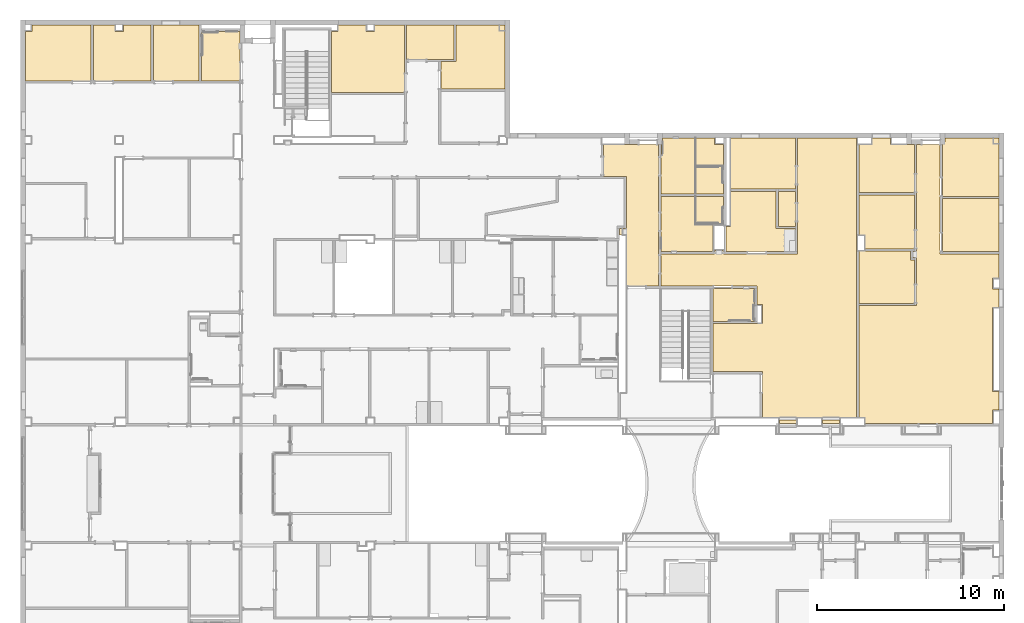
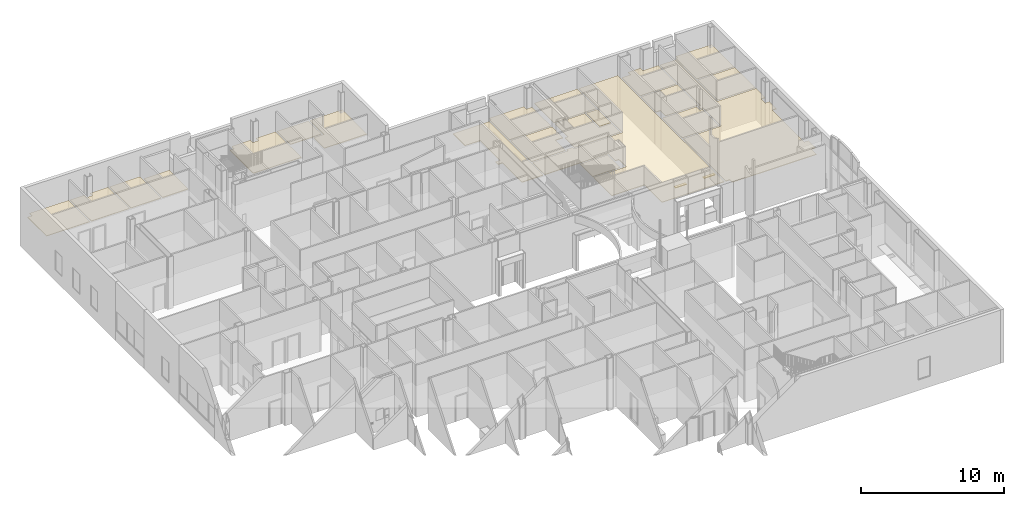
# One storey, part 56 of 87: 23 coverings.
"""IFC2X3 building model written with IfcOpenShell, lengths in metres."""

from ifc_helpers import new_model, entity, si_unit, converted_unit, origin, place, context, project, spatial, face_set, surface_model, material, layer, layer_set, layer_usage, element, save


model = new_model("IFC2X3")

# Units and contexts
model_context = context("Model", 3, precision=1e-09, world=origin())
plan_context = context("Plan", 3, precision=1e-09, world=origin())
ifc_project = project(units=[si_unit("LENGTHUNIT", "METRE"), si_unit("AREAUNIT", "SQUARE_METRE"), si_unit("VOLUMEUNIT", "CUBIC_METRE"), converted_unit("PLANEANGLEUNIT", "DEGREE", entity("IfcRatioMeasure", 0.01745329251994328), si_unit("PLANEANGLEUNIT", "RADIAN"), dimensions=[0, 0, 0, 0, 0, 0, 0]), si_unit("TIMEUNIT", "SECOND")], contexts=[model_context, plan_context])

# Site, building, storey
site_placement = place(None, origin())
site = spatial("IfcSite", under=ifc_project, at=site_placement, Name="Default", CompositionType="ELEMENT")
building_placement = place(site_placement, origin())
building = spatial("IfcBuilding", under=site, at=building_placement, CompositionType="ELEMENT")
storey_placement = place(building_placement, origin())
storey = spatial("IfcBuildingStorey", under=building, at=storey_placement, Name="First Floor", CompositionType="ELEMENT", Elevation=-3.531500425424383e-13)

# Coverings
ifc_material_1 = material(Name="Default")
ifc_layer_1 = layer(ifc_material_1, 0.03599999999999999)
ifc_material_2 = material(Name="Ceiling Tile 600 x 600")
ifc_layer_2 = layer(ifc_material_2, 0.016)
ifc_layer_set_1 = layer_set([ifc_layer_1, ifc_layer_2], Name="Compound Ceiling:ACT 600 x 600mm Grid")
ifc_layer_usage_1 = layer_usage(ifc_layer_set_1, "AXIS3", "NEGATIVE", 0.0)
covering_1_placement = place(storey_placement, origin())
element("IfcCovering", 1, at=covering_1_placement, inside=storey, material=ifc_layer_usage_1, Name="Compound Ceiling:ACT 600 x 600mm Grid", ObjectType="Compound Ceiling:ACT 600 x 600mm Grid", PredefinedType="CEILING", context=model_context, shape_type="SurfaceModel", body=[
    surface_model("IfcFaceBasedSurfaceModel", [(0.1129999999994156, 50.20299999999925, 2.732), (0.1129999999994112, 47.07399999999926, 2.732), (-2.916000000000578, 47.07399999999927, 2.732), (-2.916000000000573, 49.97649999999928, 2.732), (-2.773000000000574, 49.97649999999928, 2.732), (-2.773000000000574, 50.20299999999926, 2.732), (0.1129999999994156, 50.20299999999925, 2.68), (0.1129999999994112, 47.07399999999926, 2.68), (-2.916000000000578, 47.07399999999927, 2.68), (-2.916000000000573, 49.97649999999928, 2.68), (-2.773000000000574, 49.97649999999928, 2.68), (-2.773000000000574, 50.20299999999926, 2.68)], [face_set([[[0, 1, 2, 3, 4, 5]], [[6, 7, 8, 9, 10, 11]], [[5, 11, 6, 0]], [[4, 10, 11, 5]], [[3, 9, 10, 4]], [[2, 8, 9, 3]], [[1, 2, 8, 7]], [[0, 1, 7, 6]]])]),
])
ifc_layer_usage_2 = layer_usage(ifc_layer_set_1, "AXIS3", "NEGATIVE", 0.0)
covering_2_placement = place(storey_placement, origin())
element("IfcCovering", 2, at=covering_2_placement, inside=storey, material=ifc_layer_usage_2, Name="Compound Ceiling:ACT 600 x 600mm Grid", ObjectType="Compound Ceiling:ACT 600 x 600mm Grid", PredefinedType="CEILING", context=model_context, shape_type="SurfaceModel", body=[
    surface_model("IfcFaceBasedSurfaceModel", [(-2.916000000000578, 46.94999999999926, 2.732), (0.1129999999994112, 46.94999999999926, 2.732), (0.1129999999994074, 44.11399999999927, 2.732), (-2.916000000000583, 44.11399999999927, 2.732), (-2.916000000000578, 46.94999999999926, 2.68), (0.1129999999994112, 46.94999999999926, 2.68), (0.1129999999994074, 44.11399999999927, 2.68), (-2.916000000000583, 44.11399999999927, 2.68)], [face_set([[[0, 1, 2, 3]], [[4, 5, 6, 7]], [[3, 7, 4, 0]], [[2, 3, 7, 6]], [[1, 2, 6, 5]], [[0, 4, 5, 1]]])]),
])
ifc_layer_usage_3 = layer_usage(ifc_layer_set_1, "AXIS3", "NEGATIVE", 0.0)
covering_3_placement = place(storey_placement, origin())
element("IfcCovering", 3, at=covering_3_placement, inside=storey, material=ifc_layer_usage_3, Name="Compound Ceiling:ACT 600 x 600mm Grid", ObjectType="Compound Ceiling:ACT 600 x 600mm Grid", PredefinedType="CEILING", context=model_context, shape_type="SurfaceModel", body=[
    surface_model("IfcFaceBasedSurfaceModel", [(-7.386000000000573, 45.00999999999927, 2.732), (-7.050000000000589, 45.00999999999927, 2.732), (-7.050000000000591, 44.26399999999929, 2.732), (-4.424000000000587, 44.26399999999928, 2.732), (-4.424000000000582, 47.14999999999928, 2.732), (-7.386000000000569, 47.14999999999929, 2.732), (-7.386000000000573, 45.00999999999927, 2.68), (-7.386000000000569, 47.14999999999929, 2.68), (-4.424000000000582, 47.14999999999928, 2.68), (-4.424000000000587, 44.26399999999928, 2.68), (-7.050000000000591, 44.26399999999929, 2.68), (-7.050000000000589, 45.00999999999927, 2.68)], [face_set([[[0, 1, 2, 3, 4, 5]], [[6, 7, 8, 9, 10, 11]], [[2, 10, 11, 1]], [[3, 2, 10, 9]], [[4, 3, 9, 8]], [[5, 7, 8, 4]], [[0, 6, 7, 5]], [[1, 0, 6, 11]]])]),
])
ifc_layer_usage_4 = layer_usage(ifc_layer_set_1, "AXIS3", "NEGATIVE", 0.0)
covering_4_placement = place(storey_placement, origin())
element("IfcCovering", 4, at=covering_4_placement, inside=storey, material=ifc_layer_usage_4, Name="Compound Ceiling:ACT 600 x 600mm Grid", ObjectType="Compound Ceiling:ACT 600 x 600mm Grid", PredefinedType="CEILING", context=model_context, shape_type="SurfaceModel", body=[
    surface_model("IfcFaceBasedSurfaceModel", [(-6.683997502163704, 50.20299999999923, 2.732), (-6.683997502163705, 49.84299999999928, 2.732), (-7.386000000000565, 49.84299999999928, 2.732), (-7.386000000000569, 47.27399999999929, 2.732), (-4.424000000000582, 47.27399999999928, 2.732), (-4.424000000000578, 49.84299999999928, 2.732), (-4.698500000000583, 49.84299999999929, 2.732), (-5.683997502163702, 49.84299999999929, 2.732), (-5.683997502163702, 50.20299999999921, 2.732), (-6.683997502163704, 50.20299999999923, 2.68), (-5.683997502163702, 50.20299999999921, 2.68), (-5.683997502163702, 49.84299999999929, 2.68), (-4.698500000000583, 49.84299999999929, 2.68), (-4.424000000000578, 49.84299999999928, 2.68), (-4.424000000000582, 47.27399999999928, 2.68), (-7.386000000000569, 47.27399999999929, 2.68), (-7.386000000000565, 49.84299999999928, 2.68), (-6.683997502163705, 49.84299999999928, 2.68)], [face_set([[[0, 1, 2, 3, 4, 5, 6, 7, 8]], [[9, 10, 11, 12, 13, 14, 15, 16, 17]], [[2, 16, 17, 1]], [[3, 15, 16, 2]], [[4, 3, 15, 14]], [[5, 4, 14, 13]], [[6, 12, 13, 5]], [[7, 11, 12, 6]], [[8, 7, 11, 10]], [[0, 9, 10, 8]], [[1, 17, 9, 0]]])]),
])
ifc_layer_usage_5 = layer_usage(ifc_layer_set_1, "AXIS3", "NEGATIVE", 0.0)
covering_5_placement = place(storey_placement, origin())
element("IfcCovering", 5, at=covering_5_placement, inside=storey, material=ifc_layer_usage_5, Name="Compound Ceiling:ACT 600 x 600mm Grid", ObjectType="Compound Ceiling:ACT 600 x 600mm Grid", PredefinedType="CEILING", context=model_context, shape_type="SurfaceModel", body=[
    surface_model("IfcFaceBasedSurfaceModel", [(-7.386000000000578, 41.35399999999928, 2.732), (-7.386000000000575, 44.13999999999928, 2.732), (-4.621500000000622, 44.13999999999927, 2.732), (-4.621500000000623, 43.66599999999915, 2.732), (-4.424000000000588, 43.66599999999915, 2.732), (-4.424000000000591, 41.35399999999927, 2.732), (-7.386000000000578, 41.35399999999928, 2.68), (-7.386000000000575, 44.13999999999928, 2.68), (-4.621500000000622, 44.13999999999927, 2.68), (-4.621500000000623, 43.66599999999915, 2.68), (-4.424000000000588, 43.66599999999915, 2.68), (-4.424000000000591, 41.35399999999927, 2.68)], [face_set([[[0, 1, 2, 3, 4, 5]], [[6, 7, 8, 9, 10, 11]], [[5, 0, 6, 11]], [[4, 5, 11, 10]], [[3, 9, 10, 4]], [[2, 3, 9, 8]], [[1, 7, 8, 2]], [[0, 6, 7, 1]]])]),
])
ifc_layer_usage_6 = layer_usage(ifc_layer_set_1, "AXIS3", "NEGATIVE", 0.0)
covering_6_placement = place(storey_placement, origin())
element("IfcCovering", 6, at=covering_6_placement, inside=storey, material=ifc_layer_usage_6, Name="Compound Ceiling:ACT 600 x 600mm Grid", ObjectType="Compound Ceiling:ACT 600 x 600mm Grid", PredefinedType="CEILING", context=model_context, shape_type="SurfaceModel", body=[
    surface_model("IfcFaceBasedSurfaceModel", [(-14.51600000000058, 45.46500003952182, 2.732), (-14.26000000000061, 45.46500003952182, 2.732), (-14.26000000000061, 47.33499999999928, 2.732), (-11.82000000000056, 47.33499999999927, 2.732), (-11.82000000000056, 45.34999999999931, 2.732), (-10.79400000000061, 45.34999999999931, 2.732), (-10.79400000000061, 44.11399999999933, 2.732), (-14.51600000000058, 44.11399999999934, 2.732), (-14.51600000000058, 45.46500003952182, 2.68), (-14.51600000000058, 44.11399999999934, 2.68), (-10.79400000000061, 44.11399999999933, 2.68), (-10.79400000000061, 45.34999999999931, 2.68), (-11.82000000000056, 45.34999999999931, 2.68), (-11.82000000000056, 47.33499999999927, 2.68), (-14.26000000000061, 47.33499999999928, 2.68), (-14.26000000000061, 45.46500003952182, 2.68)], [face_set([[[0, 1, 2, 3, 4, 5, 6, 7]], [[8, 9, 10, 11, 12, 13, 14, 15]], [[7, 9, 8, 0]], [[6, 7, 9, 10]], [[5, 6, 10, 11]], [[4, 12, 11, 5]], [[3, 4, 12, 13]], [[2, 14, 13, 3]], [[1, 15, 14, 2]], [[0, 8, 15, 1]]])]),
])
ifc_layer_usage_7 = layer_usage(ifc_layer_set_1, "AXIS3", "NEGATIVE", 0.0)
covering_7_placement = place(storey_placement, origin())
element("IfcCovering", 7, at=covering_7_placement, inside=storey, material=ifc_layer_usage_7, Name="Compound Ceiling:ACT 600 x 600mm Grid", ObjectType="Compound Ceiling:ACT 600 x 600mm Grid", PredefinedType="CEILING", context=model_context, shape_type="SurfaceModel", body=[
    surface_model("IfcFaceBasedSurfaceModel", [(-14.26000000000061, 47.45899999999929, 2.732), (-14.26000000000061, 50.20299999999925, 2.732), (-10.7940000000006, 50.20299999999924, 2.732), (-10.79400000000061, 47.45899999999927, 2.732), (-11.75800000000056, 47.45899999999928, 2.732), (-14.26000000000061, 47.45899999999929, 2.68), (-14.26000000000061, 50.20299999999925, 2.68), (-10.7940000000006, 50.20299999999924, 2.68), (-10.79400000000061, 47.45899999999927, 2.68), (-11.75800000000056, 47.45899999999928, 2.68)], [face_set([[[0, 1, 2, 3, 4]], [[5, 6, 7, 8, 9]], [[4, 0, 5, 9]], [[3, 4, 9, 8]], [[2, 3, 8, 7]], [[1, 6, 7, 2]], [[0, 5, 6, 1]]])]),
])
ifc_layer_usage_8 = layer_usage(ifc_layer_set_1, "AXIS3", "NEGATIVE", 0.0)
covering_8_placement = place(storey_placement, origin())
element("IfcCovering", 8, at=covering_8_placement, inside=storey, material=ifc_layer_usage_8, Name="Compound Ceiling:ACT 600 x 600mm Grid", ObjectType="Compound Ceiling:ACT 600 x 600mm Grid", PredefinedType="CEILING", context=model_context, shape_type="SurfaceModel", body=[
    surface_model("IfcFaceBasedSurfaceModel", [(-42.60000000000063, 55.90999999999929, 2.732), (-40.53700000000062, 55.90999999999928, 2.732), (-40.53700000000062, 55.42149999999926, 2.732), (-40.53700000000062, 53.26399999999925, 2.732), (-42.60000000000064, 53.26399999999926, 2.732), (-42.60000000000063, 55.90999999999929, 2.68), (-40.53700000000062, 55.90999999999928, 2.68), (-40.53700000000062, 55.42149999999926, 2.68), (-40.53700000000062, 53.26399999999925, 2.68), (-42.60000000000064, 53.26399999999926, 2.68)], [face_set([[[0, 1, 2, 3, 4]], [[5, 6, 7, 8, 9]], [[4, 9, 5, 0]], [[3, 4, 9, 8]], [[2, 3, 8, 7]], [[1, 2, 7, 6]], [[0, 5, 6, 1]]])]),
])
ifc_layer_usage_9 = layer_usage(ifc_layer_set_1, "AXIS3", "NEGATIVE", 0.0)
covering_9_placement = place(storey_placement, origin())
element("IfcCovering", 9, at=covering_9_placement, inside=storey, material=ifc_layer_usage_9, Name="Compound Ceiling:ACT 600 x 600mm Grid", ObjectType="Compound Ceiling:ACT 600 x 600mm Grid", PredefinedType="CEILING", context=model_context, shape_type="SurfaceModel", body=[
    surface_model("IfcFaceBasedSurfaceModel", [(-45.17000000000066, 53.26399999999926, 2.732), (-45.17000000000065, 56.25299999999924, 2.732), (-42.72400000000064, 56.25299999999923, 2.732), (-42.72400000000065, 53.26399999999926, 2.732), (-45.17000000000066, 53.26399999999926, 2.68), (-45.17000000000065, 56.25299999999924, 2.68), (-42.72400000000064, 56.25299999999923, 2.68), (-42.72400000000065, 53.26399999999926, 2.68)], [face_set([[[0, 1, 2, 3]], [[4, 5, 6, 7]], [[3, 0, 4, 7]], [[2, 3, 7, 6]], [[1, 5, 6, 2]], [[0, 4, 5, 1]]])]),
])
ifc_layer_usage_10 = layer_usage(ifc_layer_set_1, "AXIS3", "NEGATIVE", 0.0)
covering_10_placement = place(storey_placement, origin())
element("IfcCovering", 10, at=covering_10_placement, inside=storey, material=ifc_layer_usage_10, Name="Compound Ceiling:ACT 600 x 600mm Grid", ObjectType="Compound Ceiling:ACT 600 x 600mm Grid", PredefinedType="CEILING", context=model_context, shape_type="SurfaceModel", body=[
    surface_model("IfcFaceBasedSurfaceModel", [(-48.37000000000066, 53.26399999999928, 2.732), (-48.37000000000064, 56.25299999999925, 2.732), (-47.23000000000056, 56.25299999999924, 2.732), (-47.23000000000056, 55.90999999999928, 2.732), (-46.77000000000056, 55.90999999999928, 2.732), (-46.77000000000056, 56.25299999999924, 2.732), (-45.29400000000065, 56.25299999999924, 2.732), (-45.29400000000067, 53.26399999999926, 2.732), (-48.37000000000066, 53.26399999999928, 2.68), (-48.37000000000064, 56.25299999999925, 2.68), (-47.23000000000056, 56.25299999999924, 2.68), (-47.23000000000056, 55.90999999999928, 2.68), (-46.77000000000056, 55.90999999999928, 2.68), (-46.77000000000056, 56.25299999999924, 2.68), (-45.29400000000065, 56.25299999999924, 2.68), (-45.29400000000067, 53.26399999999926, 2.68)], [face_set([[[0, 1, 2, 3, 4, 5, 6, 7]], [[8, 9, 10, 11, 12, 13, 14, 15]], [[7, 0, 8, 15]], [[6, 7, 15, 14]], [[5, 13, 14, 6]], [[4, 12, 13, 5]], [[3, 11, 12, 4]], [[2, 3, 11, 10]], [[1, 9, 10, 2]], [[0, 8, 9, 1]]])]),
])
ifc_layer_usage_11 = layer_usage(ifc_layer_set_1, "AXIS3", "NEGATIVE", 0.0)
covering_11_placement = place(storey_placement, origin())
element("IfcCovering", 11, at=covering_11_placement, inside=storey, material=ifc_layer_usage_11, Name="Compound Ceiling:ACT 600 x 600mm Grid", ObjectType="Compound Ceiling:ACT 600 x 600mm Grid", PredefinedType="CEILING", context=model_context, shape_type="SurfaceModel", body=[
    surface_model("IfcFaceBasedSurfaceModel", [(-51.67000000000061, 56.25299999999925, 2.732), (-51.67000000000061, 55.90999999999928, 2.732), (-52.01300000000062, 55.90999999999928, 2.732), (-52.01300000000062, 53.26399999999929, 2.732), (-48.49400000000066, 53.26399999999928, 2.732), (-48.49400000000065, 56.25299999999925, 2.732), (-51.67000000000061, 56.25299999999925, 2.68), (-48.49400000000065, 56.25299999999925, 2.68), (-48.49400000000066, 53.26399999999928, 2.68), (-52.01300000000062, 53.26399999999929, 2.68), (-52.01300000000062, 55.90999999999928, 2.68), (-51.67000000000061, 55.90999999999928, 2.68)], [face_set([[[0, 1, 2, 3, 4, 5]], [[6, 7, 8, 9, 10, 11]], [[2, 10, 11, 1]], [[3, 9, 10, 2]], [[4, 3, 9, 8]], [[5, 4, 8, 7]], [[0, 6, 7, 5]], [[1, 11, 6, 0]]])]),
])
ifc_layer_usage_12 = layer_usage(ifc_layer_set_1, "AXIS3", "NEGATIVE", 0.0)
covering_12_placement = place(storey_placement, origin())
element("IfcCovering", 12, at=covering_12_placement, inside=storey, material=ifc_layer_usage_12, Name="Compound Ceiling:ACT 600 x 600mm Grid", ObjectType="Compound Ceiling:ACT 600 x 600mm Grid", PredefinedType="CEILING", context=model_context, shape_type="SurfaceModel", body=[
    surface_model("IfcFaceBasedSurfaceModel", [(-3.040000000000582, 43.98999999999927, 2.732), (0.1129999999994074, 43.98999999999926, 2.732), (0.1129999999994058, 42.70670225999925, 2.732), (-0.2300000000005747, 42.70670225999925, 2.732), (-0.2300000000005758, 42.12991185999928, 2.732), (0.1129999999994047, 42.12991185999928, 2.732), (0.1129999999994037, 41.12991185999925, 2.732), (-0.2300000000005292, 41.12991185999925, 2.732), (-0.2300000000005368, 36.62991185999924, 2.732), (0.1129999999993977, 36.62991185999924, 2.732), (0.1129999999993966, 35.62991185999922, 2.732), (-0.2300000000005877, 35.62991185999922, 2.732), (-0.2300000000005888, 34.90399999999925, 2.732), (-7.050000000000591, 34.90399999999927, 2.732), (-7.050000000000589, 35.23999999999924, 2.732), (-7.386000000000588, 35.23999999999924, 2.732), (-7.386000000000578, 41.22999999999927, 2.732), (-4.300000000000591, 41.22999999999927, 2.732), (-4.300000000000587, 43.78999999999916, 2.732), (-4.497500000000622, 43.78999999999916, 2.732), (-4.497500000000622, 44.13999999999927, 2.732), (-4.300000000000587, 44.13999999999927, 2.732), (-4.300000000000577, 49.84299999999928, 2.732), (-3.040000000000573, 49.84299999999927, 2.732), (-3.040000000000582, 43.98999999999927, 2.68), (0.1129999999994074, 43.98999999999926, 2.68), (0.1129999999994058, 42.70670225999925, 2.68), (-0.2300000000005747, 42.70670225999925, 2.68), (-0.2300000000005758, 42.12991185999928, 2.68), (0.1129999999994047, 42.12991185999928, 2.68), (0.1129999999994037, 41.12991185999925, 2.68), (-0.2300000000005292, 41.12991185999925, 2.68), (-0.2300000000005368, 36.62991185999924, 2.68), (0.1129999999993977, 36.62991185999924, 2.68), (0.1129999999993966, 35.62991185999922, 2.68), (-0.2300000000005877, 35.62991185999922, 2.68), (-0.2300000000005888, 34.90399999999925, 2.68), (-7.050000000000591, 34.90399999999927, 2.68), (-7.050000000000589, 35.23999999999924, 2.68), (-7.386000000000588, 35.23999999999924, 2.68), (-7.386000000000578, 41.22999999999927, 2.68), (-4.300000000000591, 41.22999999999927, 2.68), (-4.300000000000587, 43.78999999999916, 2.68), (-4.497500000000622, 43.78999999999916, 2.68), (-4.497500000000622, 44.13999999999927, 2.68), (-4.300000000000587, 44.13999999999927, 2.68), (-4.300000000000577, 49.84299999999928, 2.68), (-3.040000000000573, 49.84299999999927, 2.68)], [face_set([[[0, 1, 2, 3, 4, 5, 6, 7, 8, 9, 10, 11, 12, 13, 14, 15, 16, 17, 18, 19, 20, 21, 22, 23]], [[24, 25, 26, 27, 28, 29, 30, 31, 32, 33, 34, 35, 36, 37, 38, 39, 40, 41, 42, 43, 44, 45, 46, 47]], [[23, 0, 24, 47]], [[22, 46, 47, 23]], [[21, 45, 46, 22]], [[20, 44, 45, 21]], [[19, 43, 44, 20]], [[18, 19, 43, 42]], [[17, 41, 42, 18]], [[16, 40, 41, 17]], [[15, 39, 40, 16]], [[14, 15, 39, 38]], [[13, 37, 38, 14]], [[12, 13, 37, 36]], [[11, 12, 36, 35]], [[10, 11, 35, 34]], [[9, 10, 34, 33]], [[8, 32, 33, 9]], [[7, 8, 32, 31]], [[6, 7, 31, 30]], [[5, 6, 30, 29]], [[4, 28, 29, 5]], [[3, 4, 28, 27]], [[2, 3, 27, 26]], [[1, 2, 26, 25]], [[0, 24, 25, 1]]])]),
])
ifc_layer_usage_13 = layer_usage(ifc_layer_set_1, "AXIS3", "NEGATIVE", 0.0)
covering_13_placement = place(storey_placement, origin())
element("IfcCovering", 13, at=covering_13_placement, inside=storey, material=ifc_layer_usage_13, Name="Compound Ceiling:ACT 600 x 600mm Grid", ObjectType="Compound Ceiling:ACT 600 x 600mm Grid", PredefinedType="CEILING", context=model_context, shape_type="SurfaceModel", body=[
    surface_model("IfcFaceBasedSurfaceModel", [(-17.9960000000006, 44.11399999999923, 2.732), (-17.99600000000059, 47.07999999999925, 2.732), (-14.64000000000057, 47.07999999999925, 2.732), (-14.64000000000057, 45.55500079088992, 2.732), (-15.23397500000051, 45.55500079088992, 2.732), (-15.23397500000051, 44.27699999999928, 2.732), (-15.23397500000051, 44.11399999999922, 2.732), (-17.9960000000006, 44.11399999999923, 2.68), (-17.99600000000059, 47.07999999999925, 2.68), (-14.64000000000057, 47.07999999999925, 2.68), (-14.64000000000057, 45.55500079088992, 2.68), (-15.23397500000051, 45.55500079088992, 2.68), (-15.23397500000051, 44.27699999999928, 2.68), (-15.23397500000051, 44.11399999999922, 2.68)], [face_set([[[0, 1, 2, 3, 4, 5, 6]], [[7, 8, 9, 10, 11, 12, 13]], [[6, 0, 7, 13]], [[5, 6, 13, 12]], [[4, 5, 12, 11]], [[3, 4, 11, 10]], [[2, 3, 10, 9]], [[1, 8, 9, 2]], [[0, 7, 8, 1]]])]),
])
ifc_layer_usage_14 = layer_usage(ifc_layer_set_1, "AXIS3", "NEGATIVE", 0.0)
covering_14_placement = place(storey_placement, origin())
element("IfcCovering", 14, at=covering_14_placement, inside=storey, material=ifc_layer_usage_14, Name="Compound Ceiling:ACT 600 x 600mm Grid", ObjectType="Compound Ceiling:ACT 600 x 600mm Grid", PredefinedType="CEILING", context=model_context, shape_type="SurfaceModel", body=[
    surface_model("IfcFaceBasedSurfaceModel", [(-21.05600000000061, 49.84299999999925, 2.732), (-19.81550000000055, 49.84299999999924, 2.732), (-18.12000000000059, 49.84299999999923, 2.732), (-18.1200000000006, 42.28000069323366, 2.732), (-19.83000000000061, 42.28000069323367, 2.732), (-19.83000000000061, 45.00999999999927, 2.732), (-20.20500000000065, 45.00999999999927, 2.732), (-20.20500000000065, 45.35999999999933, 2.732), (-19.83000000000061, 45.35999999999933, 2.732), (-19.8300000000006, 48.14999999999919, 2.732), (-21.05600000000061, 48.14999999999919, 2.732), (-21.05600000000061, 49.84299999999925, 2.68), (-19.81550000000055, 49.84299999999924, 2.68), (-18.12000000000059, 49.84299999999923, 2.68), (-18.1200000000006, 42.28000069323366, 2.68), (-19.83000000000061, 42.28000069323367, 2.68), (-19.83000000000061, 45.00999999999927, 2.68), (-20.20500000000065, 45.00999999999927, 2.68), (-20.20500000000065, 45.35999999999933, 2.68), (-19.83000000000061, 45.35999999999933, 2.68), (-19.8300000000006, 48.14999999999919, 2.68), (-21.05600000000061, 48.14999999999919, 2.68)], [face_set([[[0, 1, 2, 3, 4, 5, 6, 7, 8, 9, 10]], [[11, 12, 13, 14, 15, 16, 17, 18, 19, 20, 21]], [[10, 21, 11, 0]], [[9, 10, 21, 20]], [[8, 19, 20, 9]], [[7, 18, 19, 8]], [[6, 17, 18, 7]], [[5, 6, 17, 16]], [[4, 15, 16, 5]], [[3, 4, 15, 14]], [[2, 3, 14, 13]], [[1, 12, 13, 2]], [[0, 11, 12, 1]]])]),
])
ifc_layer_usage_15 = layer_usage(ifc_layer_set_1, "AXIS3", "NEGATIVE", 0.0)
covering_15_placement = place(storey_placement, origin())
element("IfcCovering", 15, at=covering_15_placement, inside=storey, material=ifc_layer_usage_15, Name="Compound Ceiling:ACT 600 x 600mm Grid", ObjectType="Compound Ceiling:ACT 600 x 600mm Grid", PredefinedType="CEILING", context=model_context, shape_type="SurfaceModel", body=[
    surface_model("IfcFaceBasedSurfaceModel", [(-15.19600000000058, 40.38399999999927, 2.732), (-15.19600000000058, 42.15600069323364, 2.732), (-12.97400000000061, 42.15600069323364, 2.732), (-12.97400000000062, 41.21799999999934, 2.732), (-12.97400000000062, 40.38399999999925, 2.732), (-15.19600000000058, 40.38399999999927, 2.68), (-15.19600000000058, 42.15600069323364, 2.68), (-12.97400000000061, 42.15600069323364, 2.68), (-12.97400000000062, 41.21799999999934, 2.68), (-12.97400000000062, 40.38399999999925, 2.68)], [face_set([[[0, 1, 2, 3, 4]], [[5, 6, 7, 8, 9]], [[4, 0, 5, 9]], [[3, 4, 9, 8]], [[2, 3, 8, 7]], [[1, 6, 7, 2]], [[0, 5, 6, 1]]])]),
])
ifc_layer_usage_16 = layer_usage(ifc_layer_set_1, "AXIS3", "NEGATIVE", 0.0)
covering_16_placement = place(storey_placement, origin())
element("IfcCovering", 16, at=covering_16_placement, inside=storey, material=ifc_layer_usage_16, Name="Compound Ceiling:ACT 600 x 600mm Grid", ObjectType="Compound Ceiling:ACT 600 x 600mm Grid", PredefinedType="CEILING", context=model_context, shape_type="SurfaceModel", body=[
    surface_model("IfcFaceBasedSurfaceModel", [(-35.28000000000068, 56.25299999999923, 2.732), (-35.28000000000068, 55.90999999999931, 2.732), (-35.61600000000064, 55.90999999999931, 2.732), (-35.61600000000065, 52.64399999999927, 2.732), (-31.72400000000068, 52.64399999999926, 2.732), (-31.72400000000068, 56.25299999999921, 2.732), (-33.32000000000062, 56.25299999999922, 2.732), (-33.32000000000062, 55.90999999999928, 2.732), (-33.78000000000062, 55.90999999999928, 2.732), (-33.78000000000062, 56.25299999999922, 2.732), (-35.28000000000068, 56.25299999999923, 2.68), (-33.78000000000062, 56.25299999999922, 2.68), (-33.78000000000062, 55.90999999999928, 2.68), (-33.32000000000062, 55.90999999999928, 2.68), (-33.32000000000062, 56.25299999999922, 2.68), (-31.72400000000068, 56.25299999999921, 2.68), (-31.72400000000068, 52.64399999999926, 2.68), (-35.61600000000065, 52.64399999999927, 2.68), (-35.61600000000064, 55.90999999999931, 2.68), (-35.28000000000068, 55.90999999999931, 2.68)], [face_set([[[0, 1, 2, 3, 4, 5, 6, 7, 8, 9]], [[10, 11, 12, 13, 14, 15, 16, 17, 18, 19]], [[2, 18, 19, 1]], [[3, 17, 18, 2]], [[4, 3, 17, 16]], [[5, 4, 16, 15]], [[6, 14, 15, 5]], [[7, 13, 14, 6]], [[8, 12, 13, 7]], [[9, 8, 12, 11]], [[0, 10, 11, 9]], [[1, 19, 10, 0]]])]),
])
ifc_layer_usage_17 = layer_usage(ifc_layer_set_1, "AXIS3", "NEGATIVE", 0.0)
covering_17_placement = place(storey_placement, origin())
element("IfcCovering", 17, at=covering_17_placement, inside=storey, material=ifc_layer_usage_17, Name="Compound Ceiling:ACT 600 x 600mm Grid", ObjectType="Compound Ceiling:ACT 600 x 600mm Grid", PredefinedType="CEILING", context=model_context, shape_type="SurfaceModel", body=[
    surface_model("IfcFaceBasedSurfaceModel", [(-31.60000000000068, 54.41059999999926, 2.732), (-31.60000000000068, 56.25299999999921, 2.732), (-29.07400000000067, 56.2529999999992, 2.732), (-29.07400000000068, 54.41059999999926, 2.732), (-31.60000000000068, 54.41059999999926, 2.68), (-31.60000000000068, 56.25299999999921, 2.68), (-29.07400000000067, 56.2529999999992, 2.68), (-29.07400000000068, 54.41059999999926, 2.68)], [face_set([[[0, 1, 2, 3]], [[4, 5, 6, 7]], [[3, 0, 4, 7]], [[2, 3, 7, 6]], [[1, 5, 6, 2]], [[0, 4, 5, 1]]])]),
])
ifc_layer_usage_18 = layer_usage(ifc_layer_set_1, "AXIS3", "NEGATIVE", 0.0)
covering_18_placement = place(storey_placement, origin())
element("IfcCovering", 18, at=covering_18_placement, inside=storey, material=ifc_layer_usage_18, Name="Compound Ceiling:ACT 600 x 600mm Grid", ObjectType="Compound Ceiling:ACT 600 x 600mm Grid", PredefinedType="CEILING", context=model_context, shape_type="SurfaceModel", body=[
    surface_model("IfcFaceBasedSurfaceModel", [(-26.32700000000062, 56.25299999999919, 2.732), (-26.32700000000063, 52.81399999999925, 2.732), (-29.76600000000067, 52.81399999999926, 2.732), (-29.76600000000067, 54.28659999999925, 2.732), (-28.95000000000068, 54.28659999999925, 2.732), (-28.95000000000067, 56.2529999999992, 2.732), (-26.32700000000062, 56.25299999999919, 2.68), (-26.32700000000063, 52.81399999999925, 2.68), (-29.76600000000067, 52.81399999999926, 2.68), (-29.76600000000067, 54.28659999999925, 2.68), (-28.95000000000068, 54.28659999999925, 2.68), (-28.95000000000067, 56.2529999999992, 2.68)], [face_set([[[0, 1, 2, 3, 4, 5]], [[6, 7, 8, 9, 10, 11]], [[5, 11, 6, 0]], [[4, 10, 11, 5]], [[3, 9, 10, 4]], [[2, 8, 9, 3]], [[1, 2, 8, 7]], [[0, 1, 7, 6]]])]),
])
ifc_layer_usage_19 = layer_usage(ifc_layer_set_1, "AXIS3", "NEGATIVE", 0.0)
covering_19_placement = place(storey_placement, origin())
element("IfcCovering", 19, at=covering_19_placement, inside=storey, material=ifc_layer_usage_19, Name="Compound Ceiling:ACT 600 x 600mm Grid", ObjectType="Compound Ceiling:ACT 600 x 600mm Grid", PredefinedType="CEILING", context=model_context, shape_type="SurfaceModel", body=[
    surface_model("IfcFaceBasedSurfaceModel", [(-10.67000000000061, 43.98999999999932, 2.732), (-14.63999971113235, 43.98999999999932, 2.732), (-14.63999971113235, 44.18499999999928, 2.732), (-15.10997528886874, 44.18499999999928, 2.732), (-15.10997528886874, 43.98999999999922, 2.732), (-17.9960000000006, 43.98999999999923, 2.732), (-17.9960000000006, 42.28000069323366, 2.732), (-12.85000000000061, 42.28000069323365, 2.732), (-12.85000000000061, 41.27999999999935, 2.732), (-12.56000000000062, 41.27999999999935, 2.732), (-12.56000000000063, 40.25999999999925, 2.732), (-15.19600000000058, 40.25999999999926, 2.732), (-15.19600000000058, 37.69999999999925, 2.732), (-12.56000000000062, 37.69999999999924, 2.732), (-12.56000000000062, 35.23999999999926, 2.732), (-11.71200000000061, 35.23999999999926, 2.732), (-10.6680000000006, 35.23999999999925, 2.732), (-9.402000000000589, 35.23999999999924, 2.732), (-8.358000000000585, 35.23999999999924, 2.732), (-7.510000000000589, 35.23999999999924, 2.732), (-7.510000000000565, 50.20299999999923, 2.732), (-10.6700000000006, 50.20299999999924, 2.732), (-10.67000000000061, 43.98999999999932, 2.68), (-10.6700000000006, 50.20299999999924, 2.68), (-7.510000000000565, 50.20299999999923, 2.68), (-7.510000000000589, 35.23999999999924, 2.68), (-8.358000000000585, 35.23999999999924, 2.68), (-9.402000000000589, 35.23999999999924, 2.68), (-10.6680000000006, 35.23999999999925, 2.68), (-11.71200000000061, 35.23999999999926, 2.68), (-12.56000000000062, 35.23999999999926, 2.68), (-12.56000000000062, 37.69999999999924, 2.68), (-15.19600000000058, 37.69999999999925, 2.68), (-15.19600000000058, 40.25999999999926, 2.68), (-12.56000000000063, 40.25999999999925, 2.68), (-12.56000000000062, 41.27999999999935, 2.68), (-12.85000000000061, 41.27999999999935, 2.68), (-12.85000000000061, 42.28000069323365, 2.68), (-17.9960000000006, 42.28000069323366, 2.68), (-17.9960000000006, 43.98999999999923, 2.68), (-15.10997528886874, 43.98999999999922, 2.68), (-15.10997528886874, 44.18499999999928, 2.68), (-14.63999971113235, 44.18499999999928, 2.68), (-14.63999971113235, 43.98999999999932, 2.68)], [face_set([[[0, 1, 2, 3, 4, 5, 6, 7, 8, 9, 10, 11, 12, 13, 14, 15, 16, 17, 18, 19, 20, 21]], [[22, 23, 24, 25, 26, 27, 28, 29, 30, 31, 32, 33, 34, 35, 36, 37, 38, 39, 40, 41, 42, 43]], [[1, 43, 22, 0]], [[2, 1, 43, 42]], [[3, 41, 42, 2]], [[4, 40, 41, 3]], [[5, 39, 40, 4]], [[6, 38, 39, 5]], [[7, 6, 38, 37]], [[8, 36, 37, 7]], [[9, 8, 36, 35]], [[10, 34, 35, 9]], [[11, 33, 34, 10]], [[12, 32, 33, 11]], [[13, 12, 32, 31]], [[14, 30, 31, 13]], [[15, 14, 30, 29]], [[16, 15, 29, 28]], [[17, 16, 28, 27]], [[18, 17, 27, 26]], [[19, 18, 26, 25]], [[20, 19, 25, 24]], [[21, 23, 24, 20]], [[0, 22, 23, 21]]])]),
])
ifc_layer_usage_20 = layer_usage(ifc_layer_set_1, "AXIS3", "NEGATIVE", 0.0)
covering_20_placement = place(storey_placement, origin())
element("IfcCovering", 20, at=covering_20_placement, inside=storey, material=ifc_layer_usage_20, Name="Compound Ceiling:ACT 600 x 600mm Grid", ObjectType="Compound Ceiling:ACT 600 x 600mm Grid", PredefinedType="CEILING", context=model_context, shape_type="SurfaceModel", body=[
    surface_model("IfcFaceBasedSurfaceModel", [(-17.99600000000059, 49.97649999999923, 2.732), (-17.90300000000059, 49.97649999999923, 2.732), (-17.90300000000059, 50.20299999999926, 2.732), (-15.10997500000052, 50.20299999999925, 2.732), (-15.10997500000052, 49.85999999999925, 2.732), (-14.64000000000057, 49.85999999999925, 2.732), (-14.64000000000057, 47.20399999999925, 2.732), (-17.99600000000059, 47.20399999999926, 2.732), (-17.99600000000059, 49.97649999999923, 2.68), (-17.99600000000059, 47.20399999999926, 2.68), (-14.64000000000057, 47.20399999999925, 2.68), (-14.64000000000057, 49.85999999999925, 2.68), (-15.10997500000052, 49.85999999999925, 2.68), (-15.10997500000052, 50.20299999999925, 2.68), (-17.90300000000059, 50.20299999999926, 2.68), (-17.90300000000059, 49.97649999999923, 2.68)], [face_set([[[0, 1, 2, 3, 4, 5, 6, 7]], [[8, 9, 10, 11, 12, 13, 14, 15]], [[7, 9, 8, 0]], [[6, 7, 9, 10]], [[5, 6, 10, 11]], [[4, 12, 11, 5]], [[3, 4, 12, 13]], [[2, 14, 13, 3]], [[1, 15, 14, 2]], [[0, 8, 15, 1]]])]),
])
ifc_layer_usage_21 = layer_usage(ifc_layer_set_1, "AXIS3", "NEGATIVE", 0.0)
covering_21_placement = place(storey_placement, origin())
element("IfcCovering", 21, at=covering_21_placement, inside=storey, material=ifc_layer_usage_21, Name="Compound Ceiling:ACT 600 x 600mm Grid", ObjectType="Compound Ceiling:ACT 600 x 600mm Grid", PredefinedType="CEILING", context=model_context, shape_type="SurfaceModel", body=[
    surface_model("IfcFaceBasedSurfaceModel", [(-10.79400000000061, 47.33499999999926, 2.732), (-10.79400000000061, 45.47399999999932, 2.732), (-11.69600000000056, 45.47399999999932, 2.732), (-11.69600000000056, 47.33499999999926, 2.732), (-10.79400000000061, 47.33499999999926, 2.68), (-10.79400000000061, 45.47399999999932, 2.68), (-11.69600000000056, 45.47399999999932, 2.68), (-11.69600000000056, 47.33499999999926, 2.68)], [face_set([[[0, 1, 2, 3]], [[4, 5, 6, 7]], [[3, 7, 4, 0]], [[2, 6, 7, 3]], [[1, 2, 6, 5]], [[0, 1, 5, 4]]])]),
])
ifc_material_3 = material(Name="Metal - Stud Layer")
ifc_layer_3 = layer(ifc_material_3, 0.045)
ifc_material_4 = material(Name="Plasterboard")
ifc_layer_4 = layer(ifc_material_4, 0.012)
ifc_layer_set_2 = layer_set([ifc_layer_3, ifc_layer_4], Name="Compound Ceiling:Gypsum Board")
ifc_layer_usage_22 = layer_usage(ifc_layer_set_2, "AXIS3", "NEGATIVE", 0.0)
covering_22_placement = place(storey_placement, origin())
element("IfcCovering", 22, at=covering_22_placement, inside=storey, material=ifc_layer_usage_22, Name="Compound Ceiling:Gypsum Board", ObjectType="Compound Ceiling:Gypsum Board", PredefinedType="CEILING", context=model_context, shape_type="SurfaceModel", body=[
    surface_model("IfcFaceBasedSurfaceModel", [(-10.7300000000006, 35.11599999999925, 3.857), (-10.7300000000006, 34.90399999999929, 3.857), (-11.65000000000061, 34.90399999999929, 3.857), (-11.65000000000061, 35.11599999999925, 3.857), (-10.7300000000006, 35.11599999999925, 3.8), (-10.7300000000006, 34.90399999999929, 3.8), (-11.65000000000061, 34.90399999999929, 3.8), (-11.65000000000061, 35.11599999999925, 3.8)], [face_set([[[0, 1, 2, 3]], [[4, 5, 6, 7]], [[3, 7, 4, 0]], [[2, 6, 7, 3]], [[1, 2, 6, 5]], [[0, 1, 5, 4]]])]),
])
ifc_layer_usage_23 = layer_usage(ifc_layer_set_2, "AXIS3", "NEGATIVE", 0.0)
covering_23_placement = place(storey_placement, origin())
element("IfcCovering", 23, at=covering_23_placement, inside=storey, material=ifc_layer_usage_23, Name="Compound Ceiling:Gypsum Board", ObjectType="Compound Ceiling:Gypsum Board", PredefinedType="CEILING", context=model_context, shape_type="SurfaceModel", body=[
    surface_model("IfcFaceBasedSurfaceModel", [(-8.420000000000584, 35.11599999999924, 3.857), (-8.420000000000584, 34.90399999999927, 3.857), (-9.34000000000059, 34.90399999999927, 3.857), (-9.340000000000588, 35.11599999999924, 3.857), (-8.420000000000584, 35.11599999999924, 3.8), (-8.420000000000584, 34.90399999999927, 3.8), (-9.34000000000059, 34.90399999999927, 3.8), (-9.340000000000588, 35.11599999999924, 3.8)], [face_set([[[0, 1, 2, 3]], [[4, 5, 6, 7]], [[3, 7, 4, 0]], [[2, 6, 7, 3]], [[1, 2, 6, 5]], [[0, 1, 5, 4]]])]),
])

save(model, "model.ifc")
